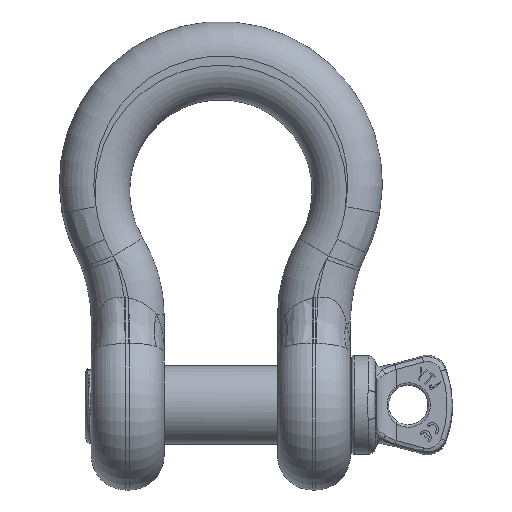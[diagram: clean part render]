
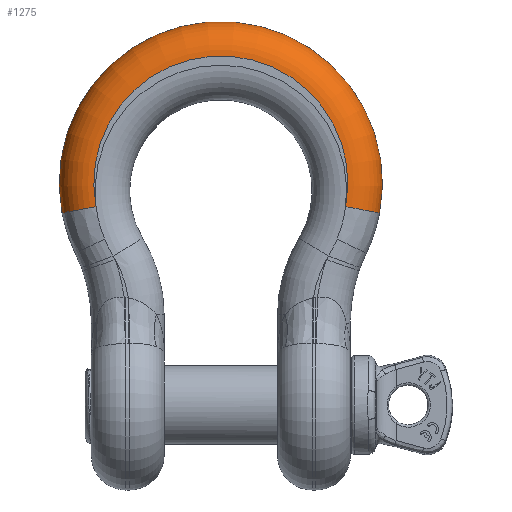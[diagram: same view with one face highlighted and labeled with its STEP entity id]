
A CAD part, top view. The second image highlights one B-rep face of the part: STEP entity #1275.
In plain terms, the highlighted toroidal (fillet/blend) face has major radius 51.5 mm and minor radius 14 mm.
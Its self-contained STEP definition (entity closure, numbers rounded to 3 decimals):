
#356=TOROIDAL_SURFACE('',#10852,51.5,14.);
#698=FACE_OUTER_BOUND('',#2440,.T.);
#1275=ADVANCED_FACE('',(#698),#356,.T.);
#1985=CIRCLE('',#10775,51.5);
#1992=CIRCLE('',#10786,65.5);
#2029=CIRCLE('',#10849,14.);
#2031=CIRCLE('',#10851,14.);
#2440=EDGE_LOOP('',(#5317,#5318,#5319,#5320));
#5317=ORIENTED_EDGE('',*,*,#8782,.T.);
#5318=ORIENTED_EDGE('',*,*,#8671,.F.);
#5319=ORIENTED_EDGE('',*,*,#8784,.F.);
#5320=ORIENTED_EDGE('',*,*,#8691,.F.);
#7438=VERTEX_POINT('',#20111);
#7439=VERTEX_POINT('',#20112);
#7456=VERTEX_POINT('',#20174);
#7457=VERTEX_POINT('',#20176);
#8671=EDGE_CURVE('',#7439,#7438,#1985,.T.);
#8691=EDGE_CURVE('',#7456,#7457,#1992,.T.);
#8782=EDGE_CURVE('',#7456,#7438,#2029,.T.);
#8784=EDGE_CURVE('',#7457,#7439,#2031,.T.);
#10775=AXIS2_PLACEMENT_3D('',#20113,#11997,#11998);
#10786=AXIS2_PLACEMENT_3D('',#20175,#12025,#12026);
#10849=AXIS2_PLACEMENT_3D('',#20540,#12166,#12167);
#10851=AXIS2_PLACEMENT_3D('',#20566,#12170,#12171);
#10852=AXIS2_PLACEMENT_3D('',#20567,#12172,#12173);
#11997=DIRECTION('',(0.,0.,1.));
#11998=DIRECTION('',(-1.,0.,0.));
#12025=DIRECTION('',(0.,0.,-1.));
#12026=DIRECTION('',(-1.,0.,0.));
#12166=DIRECTION('',(-0.186,0.983,0.));
#12167=DIRECTION('',(0.983,0.186,0.));
#12170=DIRECTION('',(-0.186,-0.983,0.));
#12171=DIRECTION('',(0.983,-0.186,0.));
#12172=DIRECTION('',(0.,0.,-1.));
#12173=DIRECTION('',(-1.,0.,0.));
#20111=CARTESIAN_POINT('',(-50.604,-9.563,14.75));
#20112=CARTESIAN_POINT('',(50.604,-9.563,14.75));
#20113=CARTESIAN_POINT('',(0.,0.,14.75));
#20174=CARTESIAN_POINT('',(-64.361,-12.163,0.75));
#20175=CARTESIAN_POINT('',(0.,0.,0.75));
#20176=CARTESIAN_POINT('',(64.361,-12.163,0.75));
#20540=CARTESIAN_POINT('',(-50.604,-9.563,0.75));
#20566=CARTESIAN_POINT('',(50.604,-9.563,0.75));
#20567=CARTESIAN_POINT('',(0.,0.,0.75));
